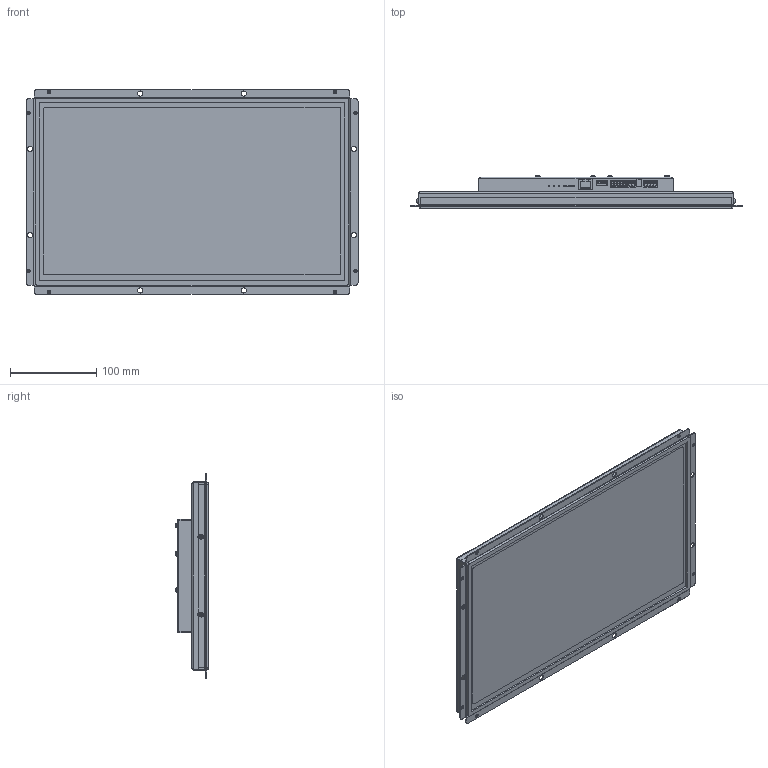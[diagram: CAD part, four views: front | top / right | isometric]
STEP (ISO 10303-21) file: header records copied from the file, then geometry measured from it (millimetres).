
FILE_DESCRIPTION(/* description */ ('fel4B-02A-15,6 Zoll LT-Line'),/* implementation_level */ '2;1');
FILE_NAME(/* name */ 'Z:\Teildatei Inventor\Inventor-Bibliothek\0000 0000 Bauteile\Bildschirme\TFT 15_6 Zoll\20000141 fel4B-02A-15,6 Zoll LT-Line.stp',/* time_stamp */ '2019-08-21T11:49:03+02:00',/* author */ ('Elfin'),/* organization */ (''),/* preprocessor_version */ 'ST-DEVELOPER v17.2',/* originating_system */ 'Autodesk Inventor 2019',/* authorisation */ '');
FILE_SCHEMA (('AUTOMOTIVE_DESIGN { 1 0 10303 214 3 1 1 }'));
Length unit declared in the file: millimetre
Products named in the file (10): 20000141; 00003383; 00003381; 00003382; 00003295; ANSI B18.3.4M - M3 x 0.5 x 4; ANSI B18.3.4M - M3 x 0.5 x 5; 00003435; ANSI B18.3.4M - M3 x 0.5 x 12; 40000016
Assembly tree (26 placements, depth 2):
  20000141
    00003383
    00003381
    ANSI B18.3.4M - M3 x 0.5 x 4  x6
    00003382
    00003295
    ANSI B18.3.4M - M3 x 0.5 x 5  x4
    00003435  x4
    ANSI B18.3.4M - M3 x 0.5 x 12  x4
    40000016  x4
Bounding box: 384.5 x 37.65 x 237 mm (x, y, z)
Volume: 767896.1 mm3; surface area: 494527 mm2
Topology: 31 solids, 31 shells, 1366 faces, 3576 edges, 2343 vertices
Faces by surface type: plane 842, cylinder 275, bspline 139, cone 92, torus 14, sphere 4
Full cylindrical faces by diameter (mm): 0.4 x11, 1.5 x3, 2.459 x8, 2.5 x8, 3 x18, 3.1 x6, 3.45 x4, 4.4 x4, 5.42 x4, 5.7 x14, 6 x8
Entity records: 36409 total; most frequent: CARTESIAN_POINT 8353, ORIENTED_EDGE 5796, DIRECTION 5208, EDGE_CURVE 2898, LINE 2018, VECTOR 2018, VERTEX_POINT 1892, AXIS2_PLACEMENT_3D 1595
